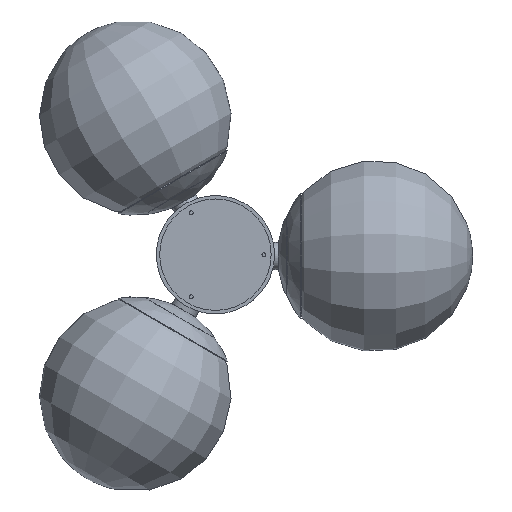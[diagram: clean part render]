
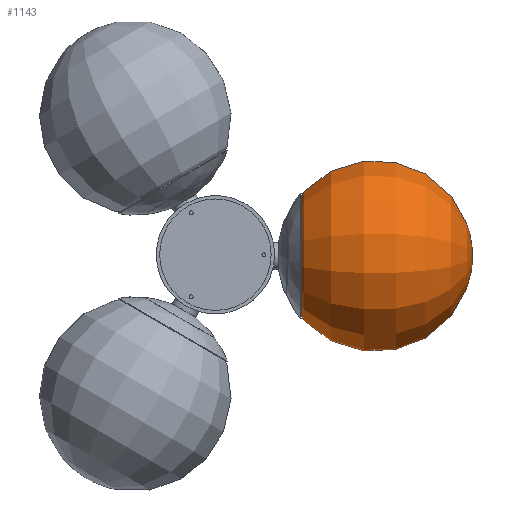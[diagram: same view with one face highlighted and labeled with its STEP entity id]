
A CAD part, top view. The second image highlights one B-rep face of the part: STEP entity #1143.
In plain terms, the highlighted free-form (B-spline) face has degree [2, 2] with [5, 9] control points.
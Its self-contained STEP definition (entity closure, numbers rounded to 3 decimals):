
#90=(
BOUNDED_SURFACE()
B_SPLINE_SURFACE(2,2,((#1895,#1896,#1897,#1898,#1899,#1900,#1901,#1902,
#1903),(#1904,#1905,#1906,#1907,#1908,#1909,#1910,#1911,#1912),(#1913,#1914,
#1915,#1916,#1917,#1918,#1919,#1920,#1921),(#1922,#1923,#1924,#1925,#1926,
#1927,#1928,#1929,#1930),(#1931,#1932,#1933,#1934,#1935,#1936,#1937,#1938,
#1939)),.UNSPECIFIED.,.F.,.T.,.F.)
B_SPLINE_SURFACE_WITH_KNOTS((3,2,3),(3,2,2,2,3),(-1.156,0.208,
1.572),(-3.142,-1.571,0.,1.571,
3.142),.UNSPECIFIED.)
GEOMETRIC_REPRESENTATION_ITEM()
RATIONAL_B_SPLINE_SURFACE(((1.,0.707,1.,0.707,1.,
0.707,1.,0.707,1.),(0.776,0.549,
0.776,0.549,0.776,0.549,
0.776,0.549,0.776),(1.,0.707,
1.,0.707,1.,0.707,1.,0.707,1.),(0.776,
0.549,0.776,0.549,0.776,
0.549,0.776,0.549,0.776),
(1.,0.707,1.,0.707,1.,0.707,1.,0.707,
1.)))
REPRESENTATION_ITEM('')
SURFACE()
);
#110=FACE_OUTER_BOUND('',#192,.T.);
#192=EDGE_LOOP('',(#791,#792,#793));
#380=CIRCLE('',#1252,40.391);
#382=CIRCLE('',#1254,100.);
#502=VERTEX_POINT('',#1892);
#503=VERTEX_POINT('',#1940);
#619=EDGE_CURVE('',#502,#502,#380,.T.);
#621=EDGE_CURVE('',#503,#502,#382,.T.);
#791=ORIENTED_EDGE('',*,*,#621,.T.);
#792=ORIENTED_EDGE('',*,*,#619,.T.);
#793=ORIENTED_EDGE('',*,*,#621,.F.);
#1143=ADVANCED_FACE('',(#110),#90,.F.);
#1252=AXIS2_PLACEMENT_3D('',#1893,#1459,#1460);
#1254=AXIS2_PLACEMENT_3D('',#1941,#1463,#1464);
#1459=DIRECTION('center_axis',(1.,0.,0.));
#1460=DIRECTION('ref_axis',(0.,-0.822,0.57));
#1463=DIRECTION('center_axis',(0.,0.822,-0.57));
#1464=DIRECTION('ref_axis',(0.,-0.57,-0.822));
#1892=CARTESIAN_POINT('',(73.701,-23.011,66.915));
#1893=CARTESIAN_POINT('Origin',(73.701,0.,100.111));
#1895=CARTESIAN_POINT('Ctrl Pts',(73.701,-23.011,66.915));
#1896=CARTESIAN_POINT('Ctrl Pts',(73.701,10.185,43.904));
#1897=CARTESIAN_POINT('Ctrl Pts',(73.701,33.196,77.1));
#1898=CARTESIAN_POINT('Ctrl Pts',(73.701,56.207,110.295));
#1899=CARTESIAN_POINT('Ctrl Pts',(73.701,23.011,133.306));
#1900=CARTESIAN_POINT('Ctrl Pts',(73.701,-10.185,156.317));
#1901=CARTESIAN_POINT('Ctrl Pts',(73.701,-33.196,123.122));
#1902=CARTESIAN_POINT('Ctrl Pts',(73.701,-56.207,89.926));
#1903=CARTESIAN_POINT('Ctrl Pts',(73.701,-23.011,66.915));
#1904=CARTESIAN_POINT('Ctrl Pts',(106.41,-65.353,5.832));
#1905=CARTESIAN_POINT('Ctrl Pts',(106.41,28.925,-59.521));
#1906=CARTESIAN_POINT('Ctrl Pts',(106.41,94.278,34.757));
#1907=CARTESIAN_POINT('Ctrl Pts',(106.41,159.632,129.036));
#1908=CARTESIAN_POINT('Ctrl Pts',(106.41,65.353,194.389));
#1909=CARTESIAN_POINT('Ctrl Pts',(106.41,-28.925,259.742));
#1910=CARTESIAN_POINT('Ctrl Pts',(106.41,-94.278,165.464));
#1911=CARTESIAN_POINT('Ctrl Pts',(106.41,-159.632,71.186));
#1912=CARTESIAN_POINT('Ctrl Pts',(106.41,-65.353,5.832));
#1913=CARTESIAN_POINT('Ctrl Pts',(185.865,-55.807,19.603));
#1914=CARTESIAN_POINT('Ctrl Pts',(185.865,24.7,-36.204));
#1915=CARTESIAN_POINT('Ctrl Pts',(185.865,80.507,44.303));
#1916=CARTESIAN_POINT('Ctrl Pts',(185.865,136.315,124.811));
#1917=CARTESIAN_POINT('Ctrl Pts',(185.865,55.807,180.618));
#1918=CARTESIAN_POINT('Ctrl Pts',(185.865,-24.7,236.425));
#1919=CARTESIAN_POINT('Ctrl Pts',(185.865,-80.507,155.918));
#1920=CARTESIAN_POINT('Ctrl Pts',(185.865,-136.315,75.411));
#1921=CARTESIAN_POINT('Ctrl Pts',(185.865,-55.807,19.603));
#1922=CARTESIAN_POINT('Ctrl Pts',(265.32,-46.261,33.375));
#1923=CARTESIAN_POINT('Ctrl Pts',(265.32,20.475,-12.887));
#1924=CARTESIAN_POINT('Ctrl Pts',(265.32,66.736,53.849));
#1925=CARTESIAN_POINT('Ctrl Pts',(265.32,112.997,120.586));
#1926=CARTESIAN_POINT('Ctrl Pts',(265.32,46.261,166.847));
#1927=CARTESIAN_POINT('Ctrl Pts',(265.32,-20.475,213.108));
#1928=CARTESIAN_POINT('Ctrl Pts',(265.32,-66.736,146.372));
#1929=CARTESIAN_POINT('Ctrl Pts',(265.32,-112.997,79.636));
#1930=CARTESIAN_POINT('Ctrl Pts',(265.32,-46.261,33.375));
#1931=CARTESIAN_POINT('Ctrl Pts',(265.23,0.,
100.111));
#1932=CARTESIAN_POINT('Ctrl Pts',(265.23,0.,
100.111));
#1933=CARTESIAN_POINT('Ctrl Pts',(265.23,0.,
100.111));
#1934=CARTESIAN_POINT('Ctrl Pts',(265.23,0.,
100.111));
#1935=CARTESIAN_POINT('Ctrl Pts',(265.23,0.,
100.111));
#1936=CARTESIAN_POINT('Ctrl Pts',(265.23,0.,
100.111));
#1937=CARTESIAN_POINT('Ctrl Pts',(265.23,0.,
100.111));
#1938=CARTESIAN_POINT('Ctrl Pts',(265.23,0.,
100.111));
#1939=CARTESIAN_POINT('Ctrl Pts',(265.23,0.,
100.111));
#1940=CARTESIAN_POINT('',(265.23,0.,100.111));
#1941=CARTESIAN_POINT('Origin',(165.23,-0.063,100.02));
